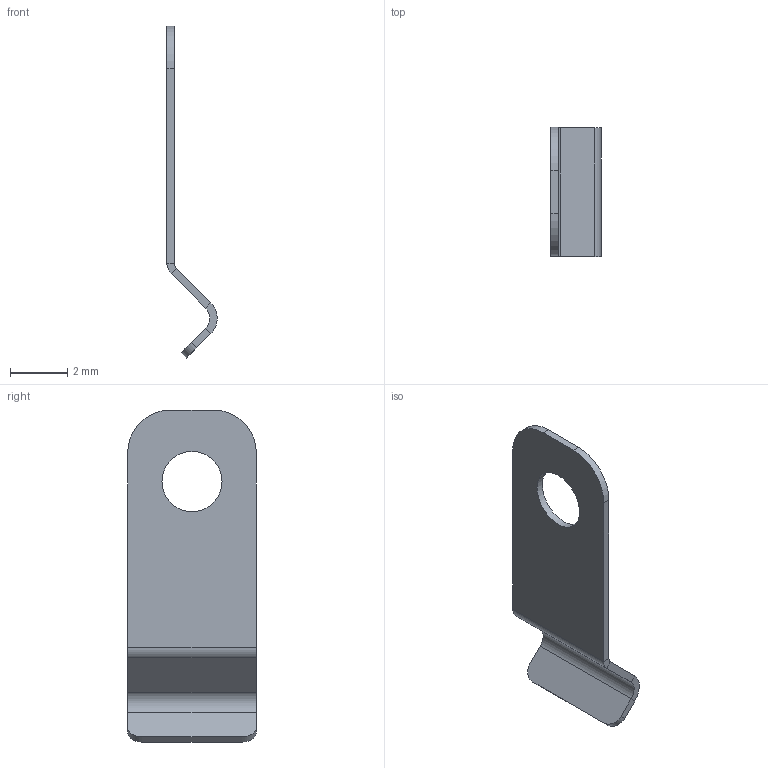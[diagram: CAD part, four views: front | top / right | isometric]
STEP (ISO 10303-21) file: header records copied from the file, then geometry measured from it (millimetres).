
FILE_DESCRIPTION(/* description */ (''),/* implementation_level */ '2;1');
FILE_NAME(/* name */ 'C:\Users\strothej\Documents\ActualDocuments\MicroscopeParts\TwoPhotonSystem\ScanningMechanics\v28\Drawings\Zeiss_Filter_Cube_Bottom_Clip.stp',/* time_stamp */ '2017-06-08T11:41:58-07:00',/* author */ ('strothej'),/* organization */ (''),/* preprocessor_version */ 'ST-DEVELOPER v16.1',/* originating_system */ 'Autodesk Inventor 2016',/* authorisation */ '');
FILE_SCHEMA (('AUTOMOTIVE_DESIGN { 1 0 10303 214 3 1 1 }'));
Length unit declared in the file: millimetre
Products named in the file (1): Zeiss_Filter_Cube_Bottom_Clip
Bounding box: 1.76 x 4.5 x 11.6 mm (x, y, z)
Volume: 13.4 mm3; surface area: 113.4 mm2
Topology: 1 solids, 1 shells, 27 faces, 59 edges, 34 vertices
Faces by surface type: plane 18, cylinder 9
Full cylindrical faces by diameter (mm): 2.1 x1
Entity records: 746 total; most frequent: DIRECTION 132, CARTESIAN_POINT 120, ORIENTED_EDGE 116, EDGE_CURVE 58, AXIS2_PLACEMENT_3D 46, LINE 40, VECTOR 40, VERTEX_POINT 34
